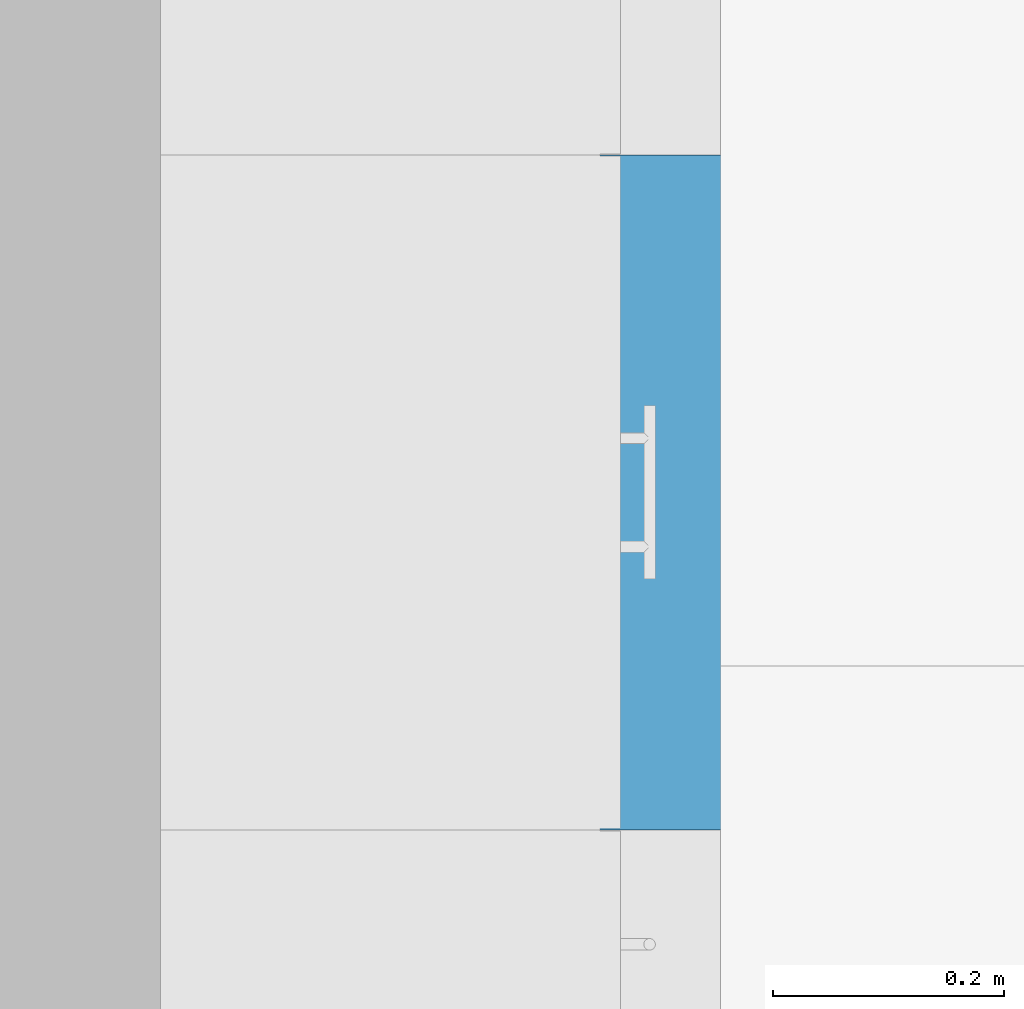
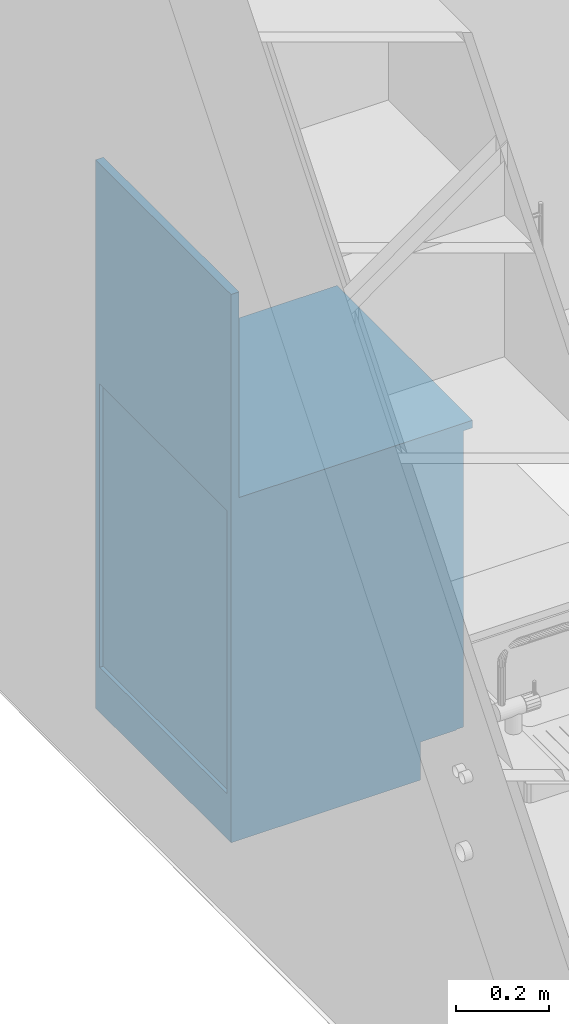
# One storey, part 48 of 68: 1 slab.
"""IFC2X3 building model written with IfcOpenShell, lengths in millimetres."""

import ifcopenshell
import ifcopenshell.guid

model = None  # the IFC model being written
_history = None  # IfcOwnerHistory: only IFC2X3 demands one
_inside = {}  # id of a spatial element -> (the spatial element, [elements in it])
_under = {}  # id of a project, library or spatial element -> (it, [spatial elements below it])
_declared = {}  # id of a project -> (the project, [libraries it declares])
_typed = {}  # id of a type object -> (the type object, [elements of that type])
_made_of = {}  # id of a material, layer set ... -> (it, [elements and type objects made of it])


def new_model(schema):
    """Start an empty IFC model of exactly this schema.

    Asked for "IFC4X3", IfcOpenShell would pick the latest addendum, in which some entities
    have other attributes; the version numbers below select the first issue.
    IFC2X3 requires an IfcOwnerHistory on every rooted entity: one is made here for all.
    """
    global model, _history
    if schema == "IFC4X3":
        model = ifcopenshell.file(schema_version=(4, 3, 0, 0))
    else:
        model = ifcopenshell.file(schema=schema)
    _inside.clear()
    _under.clear()
    _declared.clear()
    _typed.clear()
    _made_of.clear()
    _history = None
    if model.schema == "IFC2X3":
        org = make("IfcOrganization", Name="unknown")
        user = make(
            "IfcPersonAndOrganization",
            ThePerson=make("IfcPerson", FamilyName="unknown"),
            TheOrganization=org,
        )
        app = make(
            "IfcApplication",
            ApplicationDeveloper=org,
            Version="unknown",
            ApplicationFullName="unknown",
            ApplicationIdentifier="unknown",
        )
        _history = make(
            "IfcOwnerHistory",
            OwningUser=user,
            OwningApplication=app,
            ChangeAction="ADDED",
            CreationDate=0,
        )
    return model


def make(cls, **values):
    """One entity of the class cls with the attributes given. An attribute that is None is left unset."""
    return model.create_entity(
        cls, **{name: value for name, value in values.items() if value is not None}
    )


def entity(cls, *values):
    """Any entity or typed value of the class cls, its attributes in the order of the schema. None: left unset."""
    e = model.create_entity(cls)
    for i, value in enumerate(values):
        if value is not None:
            e[i] = value
    return e


def rooted(cls, **values):
    """An entity with a GlobalId (a new one), such as an element, a storey or a relation."""
    return make(cls, GlobalId=ifcopenshell.guid.new(), OwnerHistory=_history, **values)


def si_unit(unit_type, name, prefix=None):
    """IfcSIUnit, for example si_unit("LENGTHUNIT", "METRE", prefix="MILLI")."""
    return make("IfcSIUnit", UnitType=unit_type, Prefix=prefix, Name=name)


def converted_unit(unit_type, name, factor, base, dimensions=None, offset=None):
    """IfcConversionBasedUnit, such as the inch: factor (a typed value) times the base unit."""
    return make(
        "IfcConversionBasedUnit"
        if offset is None
        else "IfcConversionBasedUnitWithOffset",
        ConversionOffset=offset,
        Dimensions=None
        if dimensions is None
        else entity("IfcDimensionalExponents", *dimensions),
        UnitType=unit_type,
        Name=name,
        ConversionFactor=make(
            "IfcMeasureWithUnit", ValueComponent=factor, UnitComponent=base
        ),
    )


def derived_unit(unit_type, elements):
    """IfcDerivedUnit: a product of units, each with its exponent."""
    return make(
        "IfcDerivedUnit",
        Elements=[
            make("IfcDerivedUnitElement", Unit=unit, Exponent=power)
            for unit, power in elements
        ],
        UnitType=unit_type,
    )


def money_unit(currency):
    """IfcMonetaryUnit."""
    return make("IfcMonetaryUnit", Currency=currency)


def assignment(units):
    """IfcUnitAssignment: the units of a project."""
    return None if units is None else make("IfcUnitAssignment", Units=units)


def point(xyz):
    """IfcCartesianPoint."""
    return None if xyz is None else make("IfcCartesianPoint", Coordinates=xyz)


def direction(xyz):
    """IfcDirection."""
    return None if xyz is None else make("IfcDirection", DirectionRatios=xyz)


def frame(location, z_axis=None, x_axis=None):
    """IfcAxis2Placement3D, a coordinate frame: its origin and axes. An axis left out is left unset."""
    return make(
        "IfcAxis2Placement3D",
        Location=point(location),
        Axis=direction(z_axis),
        RefDirection=direction(x_axis),
    )


def origin_with_axes():
    """The frame at (0, 0, 0) with the z axis (0, 0, 1) and the x axis (1, 0, 0) written out."""
    return frame((0.0, 0.0, 0.0), z_axis=(0.0, 0.0, 1.0), x_axis=(1.0, 0.0, 0.0))


def place(relative_to, where):
    """IfcLocalPlacement: puts the frame where relative to a parent placement (None: the world)."""
    return make(
        "IfcLocalPlacement", PlacementRelTo=relative_to, RelativePlacement=where
    )


def context(
    kind, dimensions, precision=None, world=None, true_north=None, identifier=None
):
    """IfcGeometricRepresentationContext, for example the 3D "Model" context."""
    return make(
        "IfcGeometricRepresentationContext",
        ContextIdentifier=identifier,
        ContextType=kind,
        CoordinateSpaceDimension=dimensions,
        Precision=precision,
        WorldCoordinateSystem=world,
        TrueNorth=true_north,
    )


def subcontext(parent, identifier, kind, view, scale=None):
    """IfcGeometricRepresentationSubContext, for example "Body" below "Model"."""
    return make(
        "IfcGeometricRepresentationSubContext",
        ContextIdentifier=identifier,
        ContextType=kind,
        ParentContext=parent,
        TargetScale=scale,
        TargetView=view,
    )


def project(units=None, contexts=None):
    """IfcProject with its units and contexts."""
    return rooted(
        "IfcProject",
        Name="project",
        RepresentationContexts=contexts,
        UnitsInContext=assignment(units),
    )


def spatial(cls, under=None, at=None, **own):
    """A site, building, storey or space (cls), placed at a placement, below another one or the project."""
    s = rooted(cls, ObjectPlacement=at, **own)
    if under is not None:
        _under.setdefault(under.id(), (under, []))[1].append(s)
    return s


def faces_of(points, faces, orient=None, outer=None):
    """IfcFace entities. A face is a list of loops; a loop is a list of indices into points, from 0.

    orient and outer hold one flag for each loop. By default every Orientation is true, the
    first loop of a face is its IfcFaceOuterBound and the others are IfcFaceBound.
    """
    made = []
    for i, loops in enumerate(faces):
        bounds = []
        for j, loop in enumerate(loops):
            is_outer = j == 0 if outer is None else outer[i][j]
            bounds.append(
                make(
                    "IfcFaceOuterBound" if is_outer else "IfcFaceBound",
                    Bound=make("IfcPolyLoop", Polygon=[points[k] for k in loop]),
                    Orientation=True if orient is None else orient[i][j],
                )
            )
        made.append(make("IfcFace", Bounds=bounds))
    return made


def faceted_brep(points, faces, orient=None, outer=None, voids=None):
    """IfcFacetedBrep: a solid bounded by flat faces; with voids (closed shells), ...WithVoids."""
    shared = [point(p) for p in points]
    hull = make("IfcClosedShell", CfsFaces=faces_of(shared, faces, orient, outer))
    if voids is None:
        return make("IfcFacetedBrep", Outer=hull)
    return make(
        "IfcFacetedBrepWithVoids",
        Outer=hull,
        Voids=[
            make(cls, CfsFaces=faces_of(shared, fs, o, b)) for cls, fs, o, b in voids
        ],
    )


def shape(context_of_items, identifier, shape_type, items):
    """IfcShapeRepresentation: the items that make up one representation, for example the "Body"."""
    return make(
        "IfcShapeRepresentation",
        ContextOfItems=context_of_items,
        RepresentationIdentifier=identifier,
        RepresentationType=shape_type,
        Items=items,
    )


def made_of(thing, what):
    """Note that an element or type object is made of a material, layer set ...; save() writes the relation."""
    if what is not None:
        _made_of.setdefault(what.id(), (what, []))[1].append(thing)
    return thing


def type_object(cls, material=None, **own):
    """A type object (cls), such as IfcWallType, which elements share."""
    return made_of(rooted(cls, **own), material)


def element(
    cls,
    number,
    at=None,
    inside=None,
    cuts=None,
    type_object=None,
    material=None,
    context=None,
    identifier="Body",
    shape_type=None,
    held_by="IfcProductDefinitionShape",
    body=None,
    shapes=None,
    **own,
):
    """One element of the class cls, such as IfcWall. Its Tag is "e" and its number.

    at: its placement. inside: the storey or other place that contains it. cuts: it is an
    opening in that element (IfcRelVoidsElement). A single representation is given by context,
    identifier, shape_type and body (its items); several are given by shapes. held_by: the class
    of the entity that holds the representations. save() writes the other relations.
    """
    e = rooted(cls, Tag="e%d" % number, ObjectPlacement=at, **own)
    if body is not None:
        shapes = [shape(context, identifier, shape_type, body)]
    if shapes is not None:
        e.Representation = make(held_by, Representations=shapes)
    if inside is not None:
        _inside.setdefault(inside.id(), (inside, []))[1].append(e)
    if cuts is not None:
        rooted(
            "IfcRelVoidsElement", RelatingBuildingElement=cuts, RelatedOpeningElement=e
        )
    if type_object is not None:
        _typed.setdefault(type_object.id(), (type_object, []))[1].append(e)
    return made_of(e, material)


def aggregate(whole, parts):
    """IfcRelAggregates: a whole, such as a stair, and the parts it consists of."""
    return rooted("IfcRelAggregates", RelatingObject=whole, RelatedObjects=parts)


def save(model, path):
    """Write the relations noted so far, then the file.

    IfcRelAggregates (storeys below a building ...), IfcRelContainedInSpatialStructure (elements
    in a storey), IfcRelDefinesByType, IfcRelAssociatesMaterial and IfcRelDeclares: one each for
    every whole, place, type object, material and project.
    """
    for whole, parts in _under.values():
        aggregate(whole, parts)
    for where, things in _inside.values():
        rooted(
            "IfcRelContainedInSpatialStructure",
            RelatedElements=things,
            RelatingStructure=where,
        )
    for kind, things in _typed.values():
        rooted("IfcRelDefinesByType", RelatedObjects=things, RelatingType=kind)
    for what, things in _made_of.values():
        rooted("IfcRelAssociatesMaterial", RelatedObjects=things, RelatingMaterial=what)
    for by, libraries in _declared.values():
        rooted("IfcRelDeclares", RelatingContext=by, RelatedDefinitions=libraries)
    model.write(path)


model = new_model("IFC2X3")

# Units and contexts
model_context = context("Model", 3, precision=0.01, world=origin_with_axes(), true_north=direction((0.0, 1.0)))
body_context = subcontext(model_context, "Body", "Model", "MODEL_VIEW")
ifc_project = project(units=[si_unit("LENGTHUNIT", "METRE", prefix="MILLI"), si_unit("AREAUNIT", "SQUARE_METRE"), si_unit("VOLUMEUNIT", "CUBIC_METRE"), converted_unit("PLANEANGLEUNIT", "DEGREE", entity("IfcPlaneAngleMeasure", 0.0174532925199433), si_unit("PLANEANGLEUNIT", "RADIAN"), dimensions=[0, 0, 0, 0, 0, 0, 0]), money_unit("USD"), converted_unit("TIMEUNIT", "Year", entity("IfcTimeMeasure", 31557600.0), si_unit("TIMEUNIT", "SECOND"), dimensions=[0, 0, 1, 0, 0, 0, 0]), si_unit("MASSUNIT", "GRAM", prefix="KILO"), si_unit("THERMODYNAMICTEMPERATUREUNIT", "DEGREE_CELSIUS"), si_unit("LUMINOUSINTENSITYUNIT", "LUMEN"), si_unit("ENERGYUNIT", "JOULE", prefix="MEGA"), derived_unit("THERMALCONDUCTANCEUNIT", [(si_unit("POWERUNIT", "WATT"), 1), (si_unit("LENGTHUNIT", "METRE"), -1), (si_unit("THERMODYNAMICTEMPERATUREUNIT", "KELVIN"), -1)]), derived_unit("SPECIFICHEATCAPACITYUNIT", [(si_unit("ENERGYUNIT", "JOULE"), 1), (si_unit("MASSUNIT", "GRAM", prefix="KILO"), -1), (si_unit("THERMODYNAMICTEMPERATUREUNIT", "KELVIN"), -1)]), derived_unit("MASSDENSITYUNIT", [(si_unit("MASSUNIT", "GRAM", prefix="KILO"), 1), (si_unit("VOLUMEUNIT", "CUBIC_METRE"), -1)])], contexts=[model_context])

# Site, building, storey
site_placement = place(None, origin_with_axes())
site = spatial("IfcSite", under=ifc_project, at=site_placement, Name="Sitio", CompositionType="ELEMENT")
building_placement = place(site_placement, origin_with_axes())
building = spatial("IfcBuilding", under=site, at=building_placement, Name="Construcción", CompositionType="ELEMENT")
storey_placement = place(building_placement, origin_with_axes())
storey = spatial("IfcBuildingStorey", under=building, at=storey_placement, Name="PLANTA 1ª", CompositionType="ELEMENT", Elevation=0.0)

# Slab
slab_type = type_object("IfcSlabType", Name="Armario Base 27", PredefinedType="FLOOR")
slab_placement = place(storey_placement, frame((-27904.84818028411, 371.0241762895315, 0.0), z_axis=(0.0, 0.0, 1.0), x_axis=(0.0, 1.0, 0.0)))
element("IfcSlab", 1, at=slab_placement, inside=storey, type_object=slab_type, Name="60.20.52 Armari", PredefinedType="FLOOR", context=body_context, shape_type="Brep", body=[
    faceted_brep([(0.0, -600.0000000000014, 879.9999999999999), (583.8288796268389, -600.0000000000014, 879.9999999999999), (583.8288796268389, -600.0000000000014, 899.9999999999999), (0.0, -600.0000000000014, 899.9999999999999), (0.0, 0.0, 879.9999999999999), (583.8288796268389, 0.0, 879.9999999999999), (583.8288796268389, 0.0, 899.9999999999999), (0.0, 0.0, 899.9999999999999)], [[[0, 1, 2, 3]], [[0, 4, 5, 1]], [[1, 5, 6, 2]], [[3, 2, 6, 7]], [[4, 0, 3, 7]], [[5, 4, 7, 6]]]),
    faceted_brep([(583.8288796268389, 0.0, 899.9999999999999), (583.8288796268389, -20.0, 899.9999999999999), (0.0, -20.0, 899.9999999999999), (0.0, 0.0, 899.9999999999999), (583.8288796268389, 0.0, 1440.0), (583.8288796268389, -20.0, 1440.0), (0.0, -20.0, 1440.0), (0.0, 0.0, 1440.0)], [[[0, 1, 2, 3]], [[0, 4, 5, 1]], [[1, 5, 6, 2]], [[3, 2, 6, 7]], [[4, 0, 3, 7]], [[5, 4, 7, 6]]]),
    faceted_brep([(485.6971205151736, -578.0000000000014, 542.7990387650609), (486.5389803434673, -578.0000000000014, 542.5734631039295), (487.328879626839, -578.0000000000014, 542.2051270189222), (488.0428176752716, -578.0000000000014, 541.705222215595), (488.6591018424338, -578.0000000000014, 541.0889380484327), (489.1590066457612, -578.0000000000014, 540.3749999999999), (489.5273427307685, -578.0000000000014, 539.5851007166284), (489.7529183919, -578.0000000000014, 538.7432408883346), (489.828879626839, -578.0000000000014, 537.875), (489.7529183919, -578.0000000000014, 537.0067591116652), (489.5273427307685, -578.0000000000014, 536.1648992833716), (489.1590066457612, -578.0000000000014, 535.375), (488.6591018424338, -578.0000000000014, 534.6610619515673), (488.0428176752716, -578.0000000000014, 534.044777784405), (487.328879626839, -578.0000000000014, 533.5448729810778), (486.5389803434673, -578.0000000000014, 533.1765368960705), (485.6971205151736, -578.0000000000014, 532.9509612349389), (484.828879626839, -578.0000000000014, 532.875), (483.9606387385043, -578.0000000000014, 532.9509612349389), (483.1187789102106, -578.0000000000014, 533.1765368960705), (482.328879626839, -578.0000000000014, 533.5448729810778), (481.6149415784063, -578.0000000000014, 534.044777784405), (480.9986574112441, -578.0000000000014, 534.6610619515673), (480.4987526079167, -578.0000000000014, 535.375), (480.1304165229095, -578.0000000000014, 536.1648992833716), (479.9048408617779, -578.0000000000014, 537.0067591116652), (479.828879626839, -578.0000000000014, 537.875), (479.9048408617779, -578.0000000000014, 538.7432408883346), (480.1304165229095, -578.0000000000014, 539.5851007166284), (480.4987526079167, -578.0000000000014, 540.3749999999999), (480.9986574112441, -578.0000000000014, 541.0889380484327), (481.6149415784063, -578.0000000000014, 541.705222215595), (482.328879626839, -578.0000000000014, 542.2051270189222), (483.1187789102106, -578.0000000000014, 542.5734631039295), (483.9606387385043, -578.0000000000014, 542.799038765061), (484.828879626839, -578.0000000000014, 542.875), (485.6971205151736, -603.0000000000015, 542.7990387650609), (486.5389803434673, -603.0000000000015, 542.5734631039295), (487.328879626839, -603.0000000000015, 542.2051270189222), (488.0428176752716, -603.0000000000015, 541.705222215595), (488.6591018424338, -603.0000000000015, 541.0889380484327), (489.1590066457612, -603.0000000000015, 540.3749999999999), (489.5273427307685, -603.0000000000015, 539.5851007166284), (489.7529183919, -603.0000000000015, 538.7432408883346), (489.828879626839, -603.0000000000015, 537.875), (489.7529183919, -603.0000000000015, 537.0067591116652), (489.5273427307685, -603.0000000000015, 536.1648992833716), (489.1590066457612, -603.0000000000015, 535.375), (488.6591018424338, -603.0000000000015, 534.6610619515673), (488.0428176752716, -603.0000000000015, 534.044777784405), (487.328879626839, -603.0000000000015, 533.5448729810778), (486.5389803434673, -603.0000000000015, 533.1765368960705), (485.6971205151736, -603.0000000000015, 532.950961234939), (484.828879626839, -603.0000000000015, 532.875), (483.9606387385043, -603.0000000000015, 532.9509612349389), (483.1187789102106, -603.0000000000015, 533.1765368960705), (482.328879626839, -603.0000000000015, 533.5448729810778), (481.6149415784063, -603.0000000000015, 534.044777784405), (480.9986574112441, -603.0000000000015, 534.6610619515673), (480.4987526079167, -603.0000000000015, 535.375), (480.1304165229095, -603.0000000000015, 536.1648992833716), (479.9048408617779, -603.0000000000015, 537.0067591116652), (479.828879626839, -603.0000000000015, 537.875), (479.9048408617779, -603.0000000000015, 538.7432408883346), (480.1304165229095, -603.0000000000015, 539.5851007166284), (480.4987526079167, -603.0000000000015, 540.375), (480.9986574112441, -603.0000000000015, 541.0889380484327), (481.6149415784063, -603.0000000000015, 541.705222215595), (482.328879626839, -603.0000000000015, 542.2051270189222), (483.1187789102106, -603.0000000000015, 542.5734631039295), (483.9606387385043, -603.0000000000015, 542.799038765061), (484.828879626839, -603.0000000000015, 542.875)], [[[0, 1, 2, 3, 4, 5, 6, 7, 8, 9, 10, 11, 12, 13, 14, 15, 16, 17, 18, 19, 20, 21, 22, 23, 24, 25, 26, 27, 28, 29, 30, 31, 32, 33, 34, 35]], [[1, 0, 36, 37]], [[2, 1, 37, 38]], [[3, 2, 38, 39]], [[4, 3, 39, 40]], [[5, 4, 40, 41]], [[6, 5, 41, 42]], [[7, 6, 42, 43]], [[8, 7, 43, 44]], [[9, 8, 44, 45]], [[10, 9, 45, 46]], [[11, 10, 46, 47]], [[12, 11, 47, 48]], [[13, 12, 48, 49]], [[14, 13, 49, 50]], [[15, 14, 50, 51]], [[16, 15, 51, 52]], [[17, 16, 52, 53]], [[18, 17, 53, 54]], [[19, 18, 54, 55]], [[20, 19, 55, 56]], [[21, 20, 56, 57]], [[22, 21, 57, 58]], [[23, 22, 58, 59]], [[24, 23, 59, 60]], [[25, 24, 60, 61]], [[26, 25, 61, 62]], [[27, 26, 62, 63]], [[28, 27, 63, 64]], [[29, 28, 64, 65]], [[30, 29, 65, 66]], [[31, 30, 66, 67]], [[32, 31, 67, 68]], [[33, 32, 68, 69]], [[34, 33, 69, 70]], [[35, 34, 70, 71]], [[0, 35, 71, 36]], [[36, 71, 70, 69, 68, 67, 66, 65, 64, 63, 62, 61, 60, 59, 58, 57, 56, 55, 54, 53, 52, 51, 50, 49, 48, 47, 46, 45, 44, 43, 42, 41, 40, 39, 38, 37]]]),
    faceted_brep([(485.6971205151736, -578.0000000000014, 439.200961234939), (484.828879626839, -578.0000000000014, 439.125), (483.9606387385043, -578.0000000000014, 439.200961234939), (483.1187789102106, -578.0000000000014, 439.4265368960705), (482.328879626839, -578.0000000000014, 439.7948729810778), (481.6149415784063, -578.0000000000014, 440.2947777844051), (480.9986574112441, -578.0000000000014, 440.9110619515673), (480.4987526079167, -578.0000000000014, 441.625), (480.1304165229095, -578.0000000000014, 442.4148992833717), (479.9048408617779, -578.0000000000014, 443.2567591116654), (479.828879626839, -578.0000000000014, 444.125), (479.9048408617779, -578.0000000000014, 444.9932408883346), (480.1304165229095, -578.0000000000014, 445.8351007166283), (480.4987526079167, -578.0000000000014, 446.625), (480.9986574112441, -578.0000000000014, 447.3389380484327), (481.6149415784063, -578.0000000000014, 447.9552222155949), (482.328879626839, -578.0000000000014, 448.4551270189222), (483.1187789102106, -578.0000000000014, 448.8234631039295), (483.9606387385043, -578.0000000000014, 449.049038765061), (484.828879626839, -578.0000000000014, 449.125), (485.6971205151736, -578.0000000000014, 449.049038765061), (486.5389803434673, -578.0000000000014, 448.8234631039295), (487.328879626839, -578.0000000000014, 448.4551270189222), (488.0428176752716, -578.0000000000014, 447.9552222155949), (488.6591018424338, -578.0000000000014, 447.3389380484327), (489.1590066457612, -578.0000000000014, 446.625), (489.5273427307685, -578.0000000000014, 445.8351007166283), (489.7529183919, -578.0000000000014, 444.9932408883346), (489.828879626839, -578.0000000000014, 444.125), (489.7529183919, -578.0000000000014, 443.2567591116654), (489.5273427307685, -578.0000000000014, 442.4148992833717), (489.1590066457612, -578.0000000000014, 441.625), (488.6591018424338, -578.0000000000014, 440.9110619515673), (488.0428176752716, -578.0000000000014, 440.2947777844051), (487.328879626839, -578.0000000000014, 439.7948729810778), (486.5389803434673, -578.0000000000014, 439.4265368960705), (485.6971205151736, -603.0000000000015, 439.200961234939), (484.828879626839, -603.0000000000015, 439.125), (483.9606387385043, -603.0000000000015, 439.200961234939), (483.1187789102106, -603.0000000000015, 439.4265368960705), (482.328879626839, -603.0000000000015, 439.7948729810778), (481.6149415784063, -603.0000000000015, 440.2947777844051), (480.9986574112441, -603.0000000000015, 440.9110619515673), (480.4987526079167, -603.0000000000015, 441.625), (480.1304165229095, -603.0000000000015, 442.4148992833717), (479.9048408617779, -603.0000000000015, 443.2567591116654), (479.828879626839, -603.0000000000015, 444.125), (479.9048408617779, -603.0000000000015, 444.9932408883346), (480.1304165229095, -603.0000000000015, 445.8351007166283), (480.4987526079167, -603.0000000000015, 446.625), (480.9986574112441, -603.0000000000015, 447.3389380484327), (481.6149415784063, -603.0000000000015, 447.9552222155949), (482.328879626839, -603.0000000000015, 448.4551270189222), (483.1187789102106, -603.0000000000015, 448.8234631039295), (483.9606387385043, -603.0000000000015, 449.049038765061), (484.828879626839, -603.0000000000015, 449.125), (485.6971205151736, -603.0000000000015, 449.049038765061), (486.5389803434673, -603.0000000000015, 448.8234631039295), (487.328879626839, -603.0000000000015, 448.4551270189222), (488.0428176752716, -603.0000000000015, 447.9552222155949), (488.6591018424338, -603.0000000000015, 447.3389380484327), (489.1590066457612, -603.0000000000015, 446.625), (489.5273427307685, -603.0000000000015, 445.8351007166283), (489.7529183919, -603.0000000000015, 444.9932408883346), (489.828879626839, -603.0000000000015, 444.125), (489.7529183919, -603.0000000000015, 443.2567591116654), (489.5273427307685, -603.0000000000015, 442.4148992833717), (489.1590066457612, -603.0000000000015, 441.625), (488.6591018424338, -603.0000000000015, 440.9110619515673), (488.0428176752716, -603.0000000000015, 440.2947777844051), (487.328879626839, -603.0000000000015, 439.7948729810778), (486.5389803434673, -603.0000000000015, 439.4265368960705)], [[[0, 1, 2, 3, 4, 5, 6, 7, 8, 9, 10, 11, 12, 13, 14, 15, 16, 17, 18, 19, 20, 21, 22, 23, 24, 25, 26, 27, 28, 29, 30, 31, 32, 33, 34, 35]], [[0, 36, 37, 1]], [[1, 37, 38, 2]], [[2, 38, 39, 3]], [[3, 39, 40, 4]], [[4, 40, 41, 5]], [[5, 41, 42, 6]], [[6, 42, 43, 7]], [[7, 43, 44, 8]], [[8, 44, 45, 9]], [[9, 45, 46, 10]], [[10, 46, 47, 11]], [[11, 47, 48, 12]], [[12, 48, 49, 13]], [[13, 49, 50, 14]], [[14, 50, 51, 15]], [[15, 51, 52, 16]], [[16, 52, 53, 17]], [[17, 53, 54, 18]], [[18, 54, 55, 19]], [[19, 55, 56, 20]], [[20, 56, 57, 21]], [[21, 57, 58, 22]], [[22, 58, 59, 23]], [[23, 59, 60, 24]], [[24, 60, 61, 25]], [[25, 61, 62, 26]], [[26, 62, 63, 27]], [[27, 63, 64, 28]], [[28, 64, 65, 29]], [[29, 65, 66, 30]], [[30, 66, 67, 31]], [[31, 67, 68, 32]], [[32, 68, 69, 33]], [[33, 69, 70, 34]], [[34, 70, 71, 35]], [[35, 71, 36, 0]], [[36, 71, 70, 69, 68, 67, 66, 65, 64, 63, 62, 61, 60, 59, 58, 57, 56, 55, 54, 53, 52, 51, 50, 49, 48, 47, 46, 45, 44, 43, 42, 41, 40, 39, 38, 37]]]),
    faceted_brep([(485.6971205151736, -598.0759612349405, 416.0), (486.5389803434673, -598.3015368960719, 416.0), (487.328879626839, -598.6698729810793, 416.0), (488.0428176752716, -599.1697777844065, 416.0), (488.6591018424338, -599.7860619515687, 416.0), (489.1590066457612, -600.5000000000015, 416.0), (489.5273427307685, -601.2898992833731, 416.0), (489.7529183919, -602.1317591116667, 416.0), (489.828879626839, -603.0000000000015, 416.0), (489.7529183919, -603.8682408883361, 416.0), (489.5273427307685, -604.7101007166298, 416.0), (489.1590066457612, -605.5000000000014, 416.0), (488.6591018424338, -606.2139380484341, 416.0), (488.0428176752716, -606.8302222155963, 416.0), (487.328879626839, -607.3301270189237, 416.0), (486.5389803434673, -607.698463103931, 416.0), (485.6971205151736, -607.9240387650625, 416.0), (484.828879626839, -608.0000000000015, 416.0), (483.9606387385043, -607.9240387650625, 416.0), (483.1187789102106, -607.698463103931, 416.0), (482.328879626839, -607.3301270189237, 416.0), (481.6149415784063, -606.8302222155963, 416.0), (480.9986574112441, -606.2139380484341, 416.0), (480.4987526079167, -605.5000000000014, 416.0), (480.1304165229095, -604.7101007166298, 416.0), (479.9048408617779, -603.8682408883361, 416.0), (479.828879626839, -603.0000000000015, 416.0), (479.9048408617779, -602.1317591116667, 416.0), (480.1304165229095, -601.2898992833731, 416.0), (480.4987526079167, -600.5000000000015, 416.0), (480.9986574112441, -599.7860619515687, 416.0), (481.6149415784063, -599.1697777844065, 416.0), (482.328879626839, -598.6698729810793, 416.0), (483.1187789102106, -598.3015368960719, 416.0), (483.9606387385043, -598.0759612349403, 416.0), (484.828879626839, -598.0000000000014, 416.0), (485.6971205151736, -598.0759612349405, 566.0), (486.5389803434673, -598.3015368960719, 566.0), (487.328879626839, -598.6698729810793, 566.0), (488.0428176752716, -599.1697777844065, 566.0), (488.6591018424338, -599.7860619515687, 566.0), (489.1590066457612, -600.5000000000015, 566.0), (489.5273427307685, -601.2898992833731, 566.0), (489.7529183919, -602.1317591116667, 566.0), (489.828879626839, -603.0000000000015, 566.0), (489.7529183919, -603.8682408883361, 566.0), (489.5273427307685, -604.7101007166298, 566.0), (489.1590066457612, -605.5000000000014, 566.0), (488.6591018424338, -606.2139380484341, 566.0), (488.0428176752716, -606.8302222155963, 566.0), (487.328879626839, -607.3301270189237, 566.0), (486.5389803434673, -607.698463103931, 566.0), (485.6971205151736, -607.9240387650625, 566.0), (484.828879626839, -608.0000000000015, 566.0), (483.9606387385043, -607.9240387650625, 566.0), (483.1187789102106, -607.698463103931, 566.0), (482.328879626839, -607.3301270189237, 566.0), (481.6149415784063, -606.8302222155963, 566.0), (480.9986574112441, -606.2139380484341, 566.0), (480.4987526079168, -605.5000000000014, 566.0), (480.1304165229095, -604.7101007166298, 566.0), (479.9048408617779, -603.8682408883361, 566.0), (479.828879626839, -603.0000000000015, 566.0), (479.9048408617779, -602.1317591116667, 566.0), (480.1304165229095, -601.2898992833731, 566.0), (480.4987526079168, -600.5000000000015, 566.0), (480.9986574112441, -599.7860619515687, 566.0), (481.6149415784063, -599.1697777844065, 566.0), (482.328879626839, -598.6698729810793, 566.0), (483.1187789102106, -598.3015368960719, 566.0), (483.9606387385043, -598.0759612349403, 566.0), (484.828879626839, -598.0000000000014, 566.0)], [[[0, 1, 2, 3, 4, 5, 6, 7, 8, 9, 10, 11, 12, 13, 14, 15, 16, 17, 18, 19, 20, 21, 22, 23, 24, 25, 26, 27, 28, 29, 30, 31, 32, 33, 34, 35]], [[1, 0, 36, 37]], [[2, 1, 37, 38]], [[3, 2, 38, 39]], [[4, 3, 39, 40]], [[5, 4, 40, 41]], [[6, 5, 41, 42]], [[7, 6, 42, 43]], [[8, 7, 43, 44]], [[9, 8, 44, 45]], [[10, 9, 45, 46]], [[11, 10, 46, 47]], [[12, 11, 47, 48]], [[13, 12, 48, 49]], [[14, 13, 49, 50]], [[15, 14, 50, 51]], [[16, 15, 51, 52]], [[17, 16, 52, 53]], [[18, 17, 53, 54]], [[19, 18, 54, 55]], [[20, 19, 55, 56]], [[21, 20, 56, 57]], [[22, 21, 57, 58]], [[23, 22, 58, 59]], [[24, 23, 59, 60]], [[25, 24, 60, 61]], [[26, 25, 61, 62]], [[27, 26, 62, 63]], [[28, 27, 63, 64]], [[29, 28, 64, 65]], [[30, 29, 65, 66]], [[31, 30, 66, 67]], [[32, 31, 67, 68]], [[33, 32, 68, 69]], [[34, 33, 69, 70]], [[35, 34, 70, 71]], [[0, 35, 71, 36]], [[36, 71, 70, 69, 68, 67, 66, 65, 64, 63, 62, 61, 60, 59, 58, 57, 56, 55, 54, 53, 52, 51, 50, 49, 48, 47, 46, 45, 44, 43, 42, 41, 40, 39, 38, 37]]]),
    faceted_brep([(1.0, -560.0000000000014, 101.0), (582.8288796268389, -560.0000000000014, 101.0), (582.8288796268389, -578.0000000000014, 101.0), (1.0, -578.0000000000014, 101.0), (1.0, -560.0000000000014, 878.9999999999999), (582.8288796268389, -560.0000000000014, 878.9999999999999), (582.8288796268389, -578.0000000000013, 878.9999999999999), (1.0, -578.0000000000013, 878.9999999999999)], [[[0, 1, 2, 3]], [[0, 4, 5, 1]], [[1, 5, 6, 2]], [[3, 2, 6, 7]], [[4, 0, 3, 7]], [[5, 4, 7, 6]]]),
    faceted_brep([(18.0, -560.0000000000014, 100.0), (565.8288796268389, -560.0000000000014, 100.0), (565.8288796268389, -560.0000000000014, 118.0), (18.0, -560.0000000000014, 118.0), (18.0, 0.0, 100.0), (565.8288796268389, 0.0, 100.0), (565.8288796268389, 0.0, 118.0), (18.0, 0.0, 118.0)], [[[0, 1, 2, 3]], [[0, 4, 5, 1]], [[1, 5, 6, 2]], [[3, 2, 6, 7]], [[4, 0, 3, 7]], [[5, 4, 7, 6]]]),
    faceted_brep([(18.0, -560.0000000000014, 861.9999999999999), (18.0, -500.0000000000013, 861.9999999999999), (565.8288796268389, -500.0000000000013, 861.9999999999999), (565.8288796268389, -560.0000000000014, 861.9999999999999), (18.0, -560.0000000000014, 879.9999999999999), (18.0, -500.0000000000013, 879.9999999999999), (565.8288796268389, -500.0000000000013, 879.9999999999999), (565.8288796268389, -560.0000000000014, 879.9999999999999)], [[[0, 1, 2, 3]], [[0, 4, 5, 1]], [[1, 5, 6, 2]], [[3, 2, 6, 7]], [[4, 0, 3, 7]], [[5, 4, 7, 6]]]),
    faceted_brep([(565.8288796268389, 0.0, 861.9999999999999), (565.8288796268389, -60.0, 861.9999999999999), (18.0, -60.0, 861.9999999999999), (18.0, 0.0, 861.9999999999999), (565.8288796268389, 0.0, 879.9999999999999), (565.8288796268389, -60.0, 879.9999999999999), (18.0, -60.0, 879.9999999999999), (18.0, 0.0, 879.9999999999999)], [[[0, 1, 2, 3]], [[0, 4, 5, 1]], [[1, 5, 6, 2]], [[3, 2, 6, 7]], [[4, 0, 3, 7]], [[5, 4, 7, 6]]]),
    faceted_brep([(0.0, 0.0, 100.0), (0.0, -560.0000000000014, 100.0), (0.0, -560.0000000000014, 879.9999999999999), (0.0, 0.0, 879.9999999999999), (18.0, 0.0, 100.0), (18.0, -560.0000000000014, 100.0), (18.0, -560.0000000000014, 879.9999999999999), (18.0, 0.0, 879.9999999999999)], [[[0, 1, 2, 3]], [[0, 4, 5, 1]], [[1, 5, 6, 2]], [[3, 2, 6, 7]], [[4, 0, 3, 7]], [[5, 4, 7, 6]]]),
    faceted_brep([(583.8288796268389, -560.0000000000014, 100.0), (583.8288796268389, 0.0, 100.0), (583.8288796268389, 0.0, 879.9999999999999), (583.8288796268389, -560.0000000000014, 879.9999999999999), (565.8288796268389, -560.0000000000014, 100.0), (565.8288796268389, 0.0, 100.0), (565.8288796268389, 0.0, 879.9999999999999), (565.8288796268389, -560.0000000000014, 879.9999999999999)], [[[0, 1, 2, 3]], [[0, 4, 5, 1]], [[1, 5, 6, 2]], [[3, 2, 6, 7]], [[4, 0, 3, 7]], [[5, 4, 7, 6]]]),
    faceted_brep([(565.8288796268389, -9.0, 118.0), (18.00000000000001, -9.0, 118.0), (18.00000000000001, -9.0, 861.9999999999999), (565.8288796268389, -9.0, 861.9999999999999), (565.8288796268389, -18.0, 118.0), (18.00000000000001, -18.0, 118.0), (18.00000000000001, -18.0, 861.9999999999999), (565.8288796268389, -18.0, 861.9999999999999)], [[[0, 1, 2, 3]], [[0, 4, 5, 1]], [[1, 5, 6, 2]], [[3, 2, 6, 7]], [[4, 0, 3, 7]], [[5, 4, 7, 6]]]),
    faceted_brep([(0.0, -470.0000000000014, 0.0), (583.8288796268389, -470.0000000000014, 0.0), (583.8288796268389, -470.0000000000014, 100.0), (0.0, -470.0000000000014, 100.0), (0.0, 0.0, 0.0), (583.8288796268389, 0.0, 0.0), (583.8288796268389, 0.0, 100.0), (0.0, 0.0, 100.0)], [[[0, 1, 2, 3]], [[0, 4, 5, 1]], [[1, 5, 6, 2]], [[3, 2, 6, 7]], [[4, 0, 3, 7]], [[5, 4, 7, 6]]]),
])

save(model, "model.ifc")
